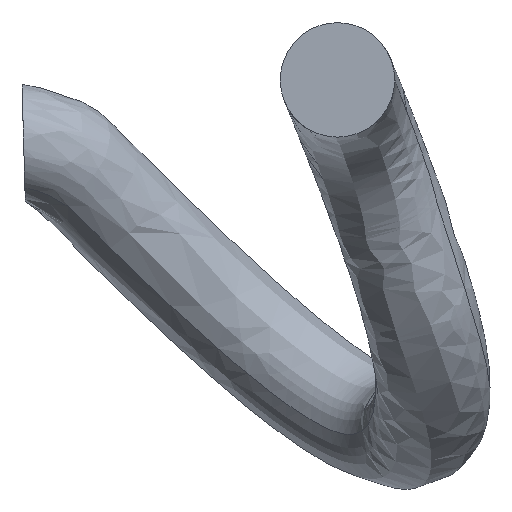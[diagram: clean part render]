
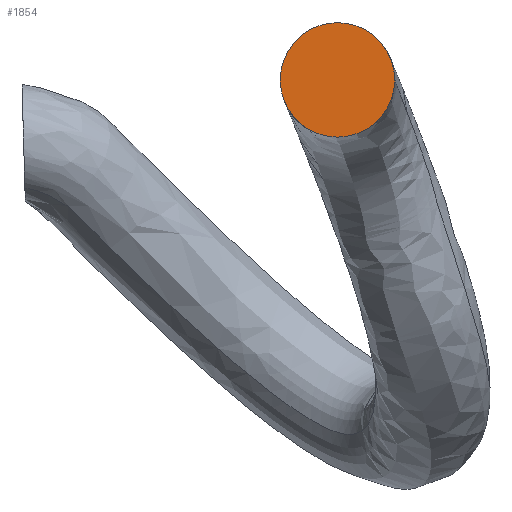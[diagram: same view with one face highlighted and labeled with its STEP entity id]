
A CAD part, front view. The second image highlights one B-rep face of the part: STEP entity #1854.
In plain terms, the highlighted planar face has unit normal (0, -1, 0).
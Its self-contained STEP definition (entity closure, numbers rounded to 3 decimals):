
#42 = VERTEX_POINT ( 'NONE', #1119 ) ;
#145 = DIRECTION ( 'NONE',  ( 0., 1., 0. ) ) ;
#182 = DIRECTION ( 'NONE',  ( 0., 0., 1. ) ) ;
#220 = ORIENTED_EDGE ( 'NONE', *, *, #1153, .F. ) ;
#423 = ORIENTED_EDGE ( 'NONE', *, *, #1960, .F. ) ;
#442 = AXIS2_PLACEMENT_3D ( 'NONE', #1938, #879, #1601 ) ;
#688 = CARTESIAN_POINT ( 'NONE',  ( 1717., -72.59, 2206.8 ) ) ;
#719 = FACE_OUTER_BOUND ( 'NONE', #2164, .T. ) ;
#739 = CIRCLE ( 'NONE', #2308, 40. ) ;
#820 = AXIS2_PLACEMENT_3D ( 'NONE', #688, #1957, #182 ) ;
#822 = DIRECTION ( 'NONE',  ( 0., 0., 1. ) ) ;
#879 = DIRECTION ( 'NONE',  ( 0., 1., 0. ) ) ;
#1119 = CARTESIAN_POINT ( 'NONE',  ( 1717., -72.59, 2166.8 ) ) ;
#1153 = EDGE_CURVE ( 'NONE', #1295, #42, #739, .T. ) ;
#1295 = VERTEX_POINT ( 'NONE', #1366 ) ;
#1366 = CARTESIAN_POINT ( 'NONE',  ( 1717., -72.59, 2246.8 ) ) ;
#1581 = CARTESIAN_POINT ( 'NONE',  ( 1717., -72.59, 2206.8 ) ) ;
#1601 = DIRECTION ( 'NONE',  ( 0., 0., 1. ) ) ;
#1610 = PLANE ( 'NONE',  #820 ) ;
#1681 = CIRCLE ( 'NONE', #442, 40. ) ;
#1854 = ADVANCED_FACE ( 'NONE', ( #719 ), #1610, .F. ) ;
#1938 = CARTESIAN_POINT ( 'NONE',  ( 1717., -72.59, 2206.8 ) ) ;
#1957 = DIRECTION ( 'NONE',  ( 0., 1., 0. ) ) ;
#1960 = EDGE_CURVE ( 'NONE', #42, #1295, #1681, .T. ) ;
#2164 = EDGE_LOOP ( 'NONE', ( #220, #423 ) ) ;
#2308 = AXIS2_PLACEMENT_3D ( 'NONE', #1581, #145, #822 ) ;
